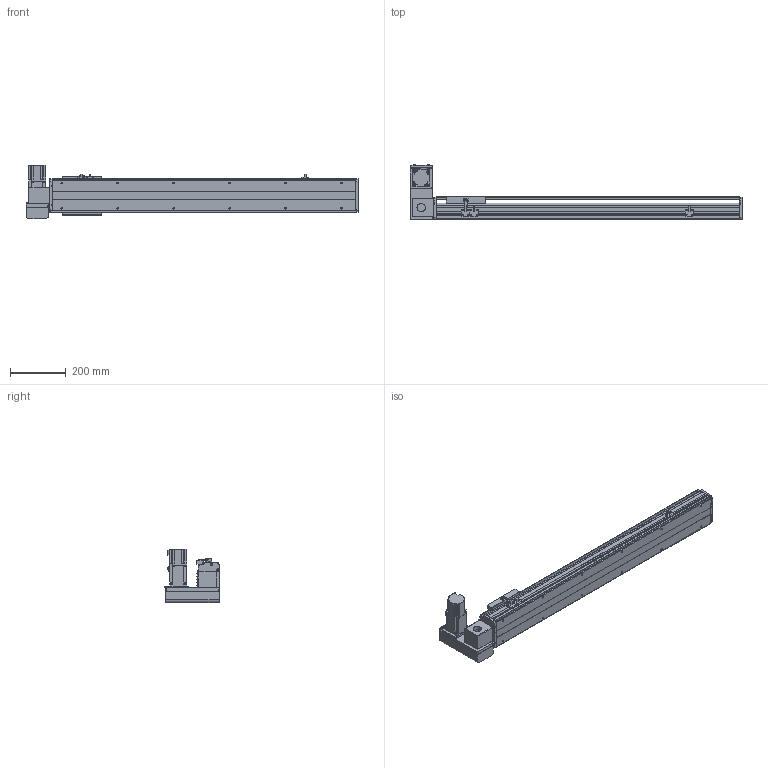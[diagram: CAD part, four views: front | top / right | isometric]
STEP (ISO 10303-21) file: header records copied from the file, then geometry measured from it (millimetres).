
FILE_DESCRIPTION( ( 'STEP AP214' ), '1' );
FILE_NAME( 'x:/temp/worker_27/temp/exporttempdir_6708_104_Dx3Pr/format_0/PBS120-P40-S800-LU-T40-C1-N(0).stp', '2022-06-06T00:30:52', ( 'License CC BY-ND 4.0' ), ( 'CADENAS' ), ' ', 'PARTsolutions', ' ' );
FILE_SCHEMA( ( 'AUTOMOTIVE_DESIGN { 1 0 10303 214 1 1 1 1 }' ) );
Length unit declared in the file: millimetre
Products named in the file (7): PBS120-P40-S800-LU-T40-C1-N(0); _PBS120-S800()_body; _PBS120T-LU_motors; _T40-p1; _PBS120_sliser; _PBS120_plant; _PBS120_sensor
Assembly tree (8 placements, depth 2):
  PBS120-P40-S800-LU-T40-C1-N(0)
    _PBS120-S800()_body
    _PBS120T-LU_motors
    _T40-p1
    _PBS120_sliser
    _PBS120_plant
    _PBS120_sensor  x3
Bounding box: 1186 x 198 x 189.7 mm (x, y, z)
Volume: 5310411.4 mm3; surface area: 1020022.7 mm2
Topology: 8 solids, 8 shells, 816 faces, 2136 edges, 1375 vertices
Faces by surface type: plane 545, cylinder 225, cone 44, torus 2
Full cylindrical faces by diameter (mm): 2.459 x6, 3.242 x4, 4 x2, 4.134 x4, 4.5 x10, 4.917 x16, 5.5 x11, 6 x2, 6.6 x1, 7 x2, 8.5 x4, 9 x4, 12 x1, 14 x1, 30 x2, 40 x1, 50 x2
Entity records: 26988 total; most frequent: DIRECTION 3692, CARTESIAN_POINT 3641, ORIENTED_EDGE 3478, EDGE_CURVE 1739, AXIS2_PLACEMENT_3D 1232, LINE 1228, VECTOR 1228, VERTEX_POINT 1181
